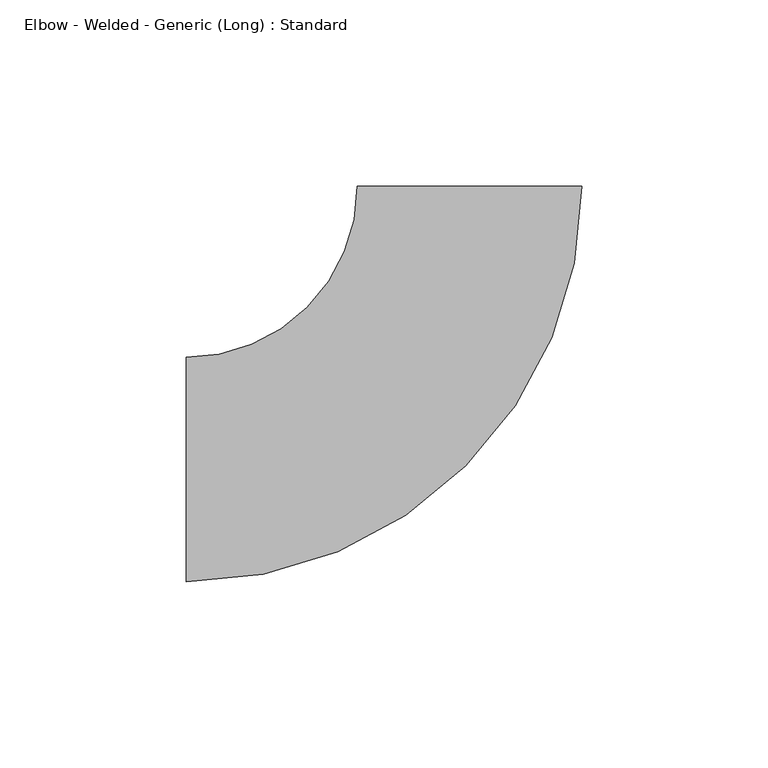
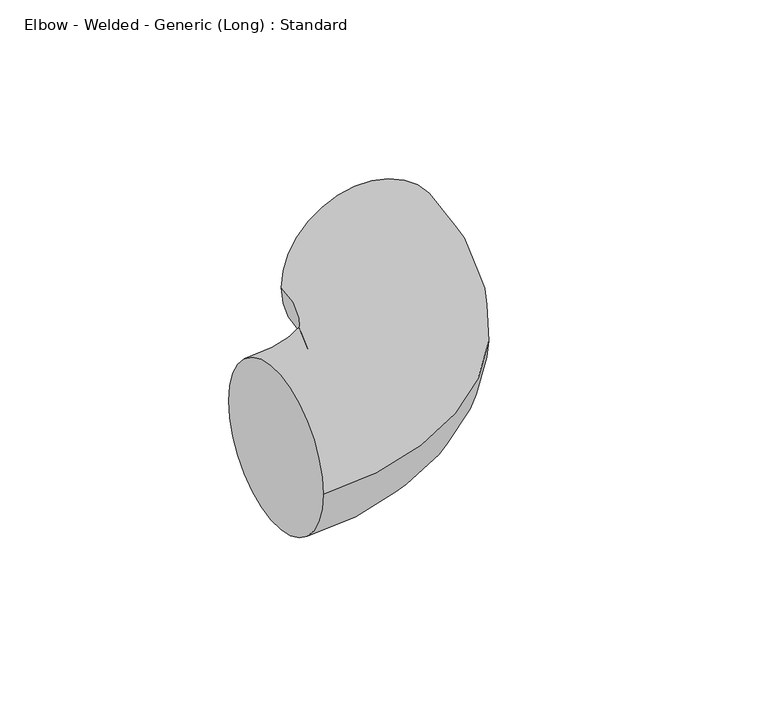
"""IFC4 building model written with IfcOpenShell, lengths in millimetres: pipe fitting geometry, Elbow - Welded - Generic (Long) : Standard."""

import ifcopenshell
import ifcopenshell.guid

model = None  # the IFC model being written
_history = None  # IfcOwnerHistory: only IFC2X3 demands one
_inside = {}  # id of a spatial element -> (the spatial element, [elements in it])
_under = {}  # id of a project, library or spatial element -> (it, [spatial elements below it])
_declared = {}  # id of a project -> (the project, [libraries it declares])
_typed = {}  # id of a type object -> (the type object, [elements of that type])
_made_of = {}  # id of a material, layer set ... -> (it, [elements and type objects made of it])


def new_model(schema):
    """Start an empty IFC model of exactly this schema.

    Asked for "IFC4X3", IfcOpenShell would pick the latest addendum, in which some entities
    have other attributes; the version numbers below select the first issue.
    IFC2X3 requires an IfcOwnerHistory on every rooted entity: one is made here for all.
    """
    global model, _history
    if schema == "IFC4X3":
        model = ifcopenshell.file(schema_version=(4, 3, 0, 0))
    else:
        model = ifcopenshell.file(schema=schema)
    _inside.clear()
    _under.clear()
    _declared.clear()
    _typed.clear()
    _made_of.clear()
    _history = None
    if model.schema == "IFC2X3":
        org = make("IfcOrganization", Name="unknown")
        user = make(
            "IfcPersonAndOrganization",
            ThePerson=make("IfcPerson", FamilyName="unknown"),
            TheOrganization=org,
        )
        app = make(
            "IfcApplication",
            ApplicationDeveloper=org,
            Version="unknown",
            ApplicationFullName="unknown",
            ApplicationIdentifier="unknown",
        )
        _history = make(
            "IfcOwnerHistory",
            OwningUser=user,
            OwningApplication=app,
            ChangeAction="ADDED",
            CreationDate=0,
        )
    return model


def make(cls, **values):
    """One entity of the class cls with the attributes given. An attribute that is None is left unset."""
    return model.create_entity(
        cls, **{name: value for name, value in values.items() if value is not None}
    )


def rooted(cls, **values):
    """An entity with a GlobalId (a new one), such as an element, a storey or a relation."""
    return make(cls, GlobalId=ifcopenshell.guid.new(), OwnerHistory=_history, **values)


def si_unit(unit_type, name, prefix=None):
    """IfcSIUnit, for example si_unit("LENGTHUNIT", "METRE", prefix="MILLI")."""
    return make("IfcSIUnit", UnitType=unit_type, Prefix=prefix, Name=name)


def assignment(units):
    """IfcUnitAssignment: the units of a project."""
    return None if units is None else make("IfcUnitAssignment", Units=units)


def point(xyz):
    """IfcCartesianPoint."""
    return None if xyz is None else make("IfcCartesianPoint", Coordinates=xyz)


def direction(xyz):
    """IfcDirection."""
    return None if xyz is None else make("IfcDirection", DirectionRatios=xyz)


def frame(location, z_axis=None, x_axis=None):
    """IfcAxis2Placement3D, a coordinate frame: its origin and axes. An axis left out is left unset."""
    return make(
        "IfcAxis2Placement3D",
        Location=point(location),
        Axis=direction(z_axis),
        RefDirection=direction(x_axis),
    )


def origin():
    """The frame at (0, 0, 0) with its axes left unset."""
    return frame((0.0, 0.0, 0.0))


def place(relative_to, where):
    """IfcLocalPlacement: puts the frame where relative to a parent placement (None: the world)."""
    return make(
        "IfcLocalPlacement", PlacementRelTo=relative_to, RelativePlacement=where
    )


def context(
    kind, dimensions, precision=None, world=None, true_north=None, identifier=None
):
    """IfcGeometricRepresentationContext, for example the 3D "Model" context."""
    return make(
        "IfcGeometricRepresentationContext",
        ContextIdentifier=identifier,
        ContextType=kind,
        CoordinateSpaceDimension=dimensions,
        Precision=precision,
        WorldCoordinateSystem=world,
        TrueNorth=true_north,
    )


def project(units=None, contexts=None):
    """IfcProject with its units and contexts."""
    return rooted(
        "IfcProject",
        Name="project",
        RepresentationContexts=contexts,
        UnitsInContext=assignment(units),
    )


def spatial(cls, under=None, at=None, **own):
    """A site, building, storey or space (cls), placed at a placement, below another one or the project."""
    s = rooted(cls, ObjectPlacement=at, **own)
    if under is not None:
        _under.setdefault(under.id(), (under, []))[1].append(s)
    return s


def circle_curve(where, radius):
    """IfcCircle in the frame where."""
    return make("IfcCircle", Position=where, Radius=radius)


def ellipse_curve(where, semi_axis1, semi_axis2):
    """IfcEllipse in the frame where."""
    return make(
        "IfcEllipse", Position=where, SemiAxis1=semi_axis1, SemiAxis2=semi_axis2
    )


def trimmed(basis, trim1, trim2, sense, master):
    """IfcTrimmedCurve: the piece of a basis curve between two trims."""
    return make(
        "IfcTrimmedCurve",
        BasisCurve=basis,
        Trim1=trim1,
        Trim2=trim2,
        SenseAgreement=sense,
        MasterRepresentation=master,
    )


def shape(context_of_items, identifier, shape_type, items):
    """IfcShapeRepresentation: the items that make up one representation, for example the "Body"."""
    return make(
        "IfcShapeRepresentation",
        ContextOfItems=context_of_items,
        RepresentationIdentifier=identifier,
        RepresentationType=shape_type,
        Items=items,
    )


def source(mapping_origin, context_of_items, identifier, shape_type, items):
    """IfcRepresentationMap: a shape defined once, which mapped items show again and again."""
    return make(
        "IfcRepresentationMap",
        MappingOrigin=mapping_origin,
        MappedRepresentation=shape(context_of_items, identifier, shape_type, items),
    )


def transform(
    local_origin,
    x_axis=None,
    y_axis=None,
    z_axis=None,
    scale=None,
    scale2=None,
    scale3=None,
    uniform=True,
):
    """IfcCartesianTransformationOperator3D, or its non-uniform kind. x_axis, y_axis, z_axis: its Axis1, 2, 3."""
    if uniform:
        return make(
            "IfcCartesianTransformationOperator3D",
            Axis1=direction(x_axis),
            Axis2=direction(y_axis),
            LocalOrigin=point(local_origin),
            Scale=scale,
            Axis3=direction(z_axis),
        )
    return make(
        "IfcCartesianTransformationOperator3DnonUniform",
        Axis1=direction(x_axis),
        Axis2=direction(y_axis),
        LocalOrigin=point(local_origin),
        Scale=scale,
        Axis3=direction(z_axis),
        Scale2=scale2,
        Scale3=scale3,
    )


def mapped(mapping_source, mapping_target):
    """IfcMappedItem: shows the shape of a source again, moved by a transform."""
    return make(
        "IfcMappedItem", MappingSource=mapping_source, MappingTarget=mapping_target
    )


def made_of(thing, what):
    """Note that an element or type object is made of a material, layer set ...; save() writes the relation."""
    if what is not None:
        _made_of.setdefault(what.id(), (what, []))[1].append(thing)
    return thing


def element(
    cls,
    number,
    at=None,
    inside=None,
    cuts=None,
    type_object=None,
    material=None,
    context=None,
    identifier="Body",
    shape_type=None,
    held_by="IfcProductDefinitionShape",
    body=None,
    shapes=None,
    **own,
):
    """One element of the class cls, such as IfcWall. Its Tag is "e" and its number.

    at: its placement. inside: the storey or other place that contains it. cuts: it is an
    opening in that element (IfcRelVoidsElement). A single representation is given by context,
    identifier, shape_type and body (its items); several are given by shapes. held_by: the class
    of the entity that holds the representations. save() writes the other relations.
    """
    e = rooted(cls, Tag="e%d" % number, ObjectPlacement=at, **own)
    if body is not None:
        shapes = [shape(context, identifier, shape_type, body)]
    if shapes is not None:
        e.Representation = make(held_by, Representations=shapes)
    if inside is not None:
        _inside.setdefault(inside.id(), (inside, []))[1].append(e)
    if cuts is not None:
        rooted(
            "IfcRelVoidsElement", RelatingBuildingElement=cuts, RelatedOpeningElement=e
        )
    if type_object is not None:
        _typed.setdefault(type_object.id(), (type_object, []))[1].append(e)
    return made_of(e, material)


def aggregate(whole, parts):
    """IfcRelAggregates: a whole, such as a stair, and the parts it consists of."""
    return rooted("IfcRelAggregates", RelatingObject=whole, RelatedObjects=parts)


def save(model, path):
    """Write the relations noted so far, then the file.

    IfcRelAggregates (storeys below a building ...), IfcRelContainedInSpatialStructure (elements
    in a storey), IfcRelDefinesByType, IfcRelAssociatesMaterial and IfcRelDeclares: one each for
    every whole, place, type object, material and project.
    """
    for whole, parts in _under.values():
        aggregate(whole, parts)
    for where, things in _inside.values():
        rooted(
            "IfcRelContainedInSpatialStructure",
            RelatedElements=things,
            RelatingStructure=where,
        )
    for kind, things in _typed.values():
        rooted("IfcRelDefinesByType", RelatedObjects=things, RelatingType=kind)
    for what, things in _made_of.values():
        rooted("IfcRelAssociatesMaterial", RelatedObjects=things, RelatingMaterial=what)
    for by, libraries in _declared.values():
        rooted("IfcRelDeclares", RelatingContext=by, RelatedDefinitions=libraries)
    model.write(path)


def plane_surface(at):
    """IfcPlane: the flat surface through the origin of the frame at, square to its z axis."""
    return make("IfcPlane", Position=at)


def revolved_surface(curve, axis_point, axis_direction):
    """IfcSurfaceOfRevolution: the curve turned about the line through axis_point along axis_direction."""
    return make(
        "IfcSurfaceOfRevolution",
        SweptCurve=make("IfcArbitraryOpenProfileDef", ProfileType="CURVE", Curve=curve),
        AxisPosition=make("IfcAxis1Placement", Location=point(axis_point), Axis=direction(axis_direction)),
    )


def advanced_brep(points, edges, surfaces, faces):
    """IfcAdvancedBrep: a solid bounded by faces that lie on surfaces and meet in shared edges.

    An edge is (start, end): straight between two places in points (the first is 0);
    or (start, end, curve); or (start, end, curve, False) where it runs against its curve.
    A face is (place in surfaces, loops), or (place, loops, False) where it looks against
    its surface's normal. A loop lists edges by number (the first is 1), with a minus sign
    where the edge is run from its end to its start. The first loop is the outer one.
    """
    corners = [point(p) for p in points]
    vertices = [make("IfcVertexPoint", VertexGeometry=c) for c in corners]
    made = []
    for start, end, *more in edges:
        made.append(
            make(
                "IfcEdgeCurve",
                EdgeStart=vertices[start],
                EdgeEnd=vertices[end],
                EdgeGeometry=more[0] if more else make("IfcPolyline", Points=[corners[start], corners[end]]),
                SameSense=more[1] if len(more) > 1 else True,
            )
        )
    hull = []
    for where, loops, *sense in faces:
        bounds = []
        for j, loop in enumerate(loops):
            ring = [make("IfcOrientedEdge", EdgeElement=made[abs(k) - 1], Orientation=k > 0) for k in loop]
            bounds.append(
                make(
                    "IfcFaceOuterBound" if j == 0 else "IfcFaceBound",
                    Bound=make("IfcEdgeLoop", EdgeList=ring),
                    Orientation=True,
                )
            )
        hull.append(make("IfcAdvancedFace", Bounds=bounds, FaceSurface=surfaces[where], SameSense=sense[0] if sense else True))
    return make("IfcAdvancedBrep", Outer=make("IfcClosedShell", CfsFaces=hull))


def elbow_welded_generic_long_standard_0cf0612b(model_context):
    return source(origin(), model_context, "Body", "AdvancedBrep", [
        advanced_brep(
        [(-76.2, -30.1625, 0.0), (-76.2, 30.1625, 0.0), (30.1616923, 76.2003197, 0.0), (-30.1633077, 76.1996803, 0.0)],
        [
            (0, 1, circle_curve(frame((-76.2, 0.0, 0.0), z_axis=(-1.0, 0.0, 0.0), x_axis=(0.0, 1.0, 0.0)), 30.1625)),
            (1, 0, circle_curve(frame((-76.2, 0.0, 0.0), z_axis=(-1.0, 0.0, 0.0), x_axis=(0.0, 1.0, 0.0)), 30.1625)),
            (2, 3, circle_curve(frame((-0.0008077, 76.2, 0.0), z_axis=(-1.0599532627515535e-05, 0.9999999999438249, 0.0), x_axis=(-0.9999999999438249, -1.0599532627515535e-05, 0.0)), 30.1625)),
            (3, 2, circle_curve(frame((-0.0008077, 76.2, 0.0), z_axis=(-1.0599532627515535e-05, 0.9999999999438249, 0.0), x_axis=(-0.9999999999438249, -1.0599532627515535e-05, 0.0)), 30.1625)),
            (3, 1, circle_curve(frame((-76.2, 76.1991923, 0.0), z_axis=(0.0, 0.0, -1.0), x_axis=(0.0, -1.0, 0.0)), 46.0366923)),
            (0, 2, circle_curve(frame((-76.2, 76.1991923, 0.0), z_axis=(0.0, 0.0, 1.0), x_axis=(0.0, -1.0, 0.0)), 106.3616923)),
        ],
        [
            plane_surface(frame((-76.2, 0.0, 0.0), z_axis=(-1.0, 0.0, 0.0), x_axis=(0.0, 0.0, 1.0))),
            plane_surface(frame((-0.0008077, 76.2, 0.0), z_axis=(-1.0599532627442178e-05, 0.9999999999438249, 0.0), x_axis=(0.0, 0.0, 1.0))),
            revolved_surface(trimmed(ellipse_curve(frame((-76.2, 0.0, 0.0), z_axis=(-1.0, 0.0, 0.0), x_axis=(0.0, 1.0, 0.0)), 30.1625, 30.1625), [point((-76.2, -30.1625, 0.0))], [point((-76.2, 30.1625, 0.0))], True, "CARTESIAN"), (-76.2, 76.1991923, 0.0), (0.0, 0.0, 1.0)),
            revolved_surface(trimmed(ellipse_curve(frame((-76.2, 0.0, 0.0), z_axis=(-1.0, 0.0, 0.0), x_axis=(0.0, 1.0, 0.0)), 30.1625, 30.1625), [point((-76.2, 30.1625, 0.0))], [point((-76.2, -30.1625, 0.0))], True, "CARTESIAN"), (-76.2, 76.1991923, 0.0), (0.0, 0.0, 1.0)),
        ],
        [
            (0, [[1, 2]]),
            (1, [[3, 4]]),
            (2, [[5, -1, 6, -4]]),
            (3, [[-6, -2, -5, -3]]),
        ],
    ),
    ])


if __name__ == "__main__":
    model = new_model("IFC4")
    model_context = context("Model", 3, world=origin())
    ifc_project = project(units=[si_unit("LENGTHUNIT", "METRE", prefix="MILLI")], contexts=[model_context])
    site = spatial("IfcSite", under=ifc_project)
    building = spatial("IfcBuilding", under=site)
    placement = place(None, origin())
    elbow_welded_generic_long_standard_shape = elbow_welded_generic_long_standard_0cf0612b(model_context)
    element("IfcPipeFitting", 1, ObjectType="Elbow - Welded - Generic (Long) : Standard", at=placement, inside=building, context=model_context, shape_type="MappedRepresentation", body=[
        mapped(elbow_welded_generic_long_standard_shape, transform((0.0, 0.0, 0.0), x_axis=(1.0, 0.0, 0.0), y_axis=(0.0, 1.0, 0.0), z_axis=(0.0, 0.0, 1.0))),
    ])
    save(model, "model.ifc")
